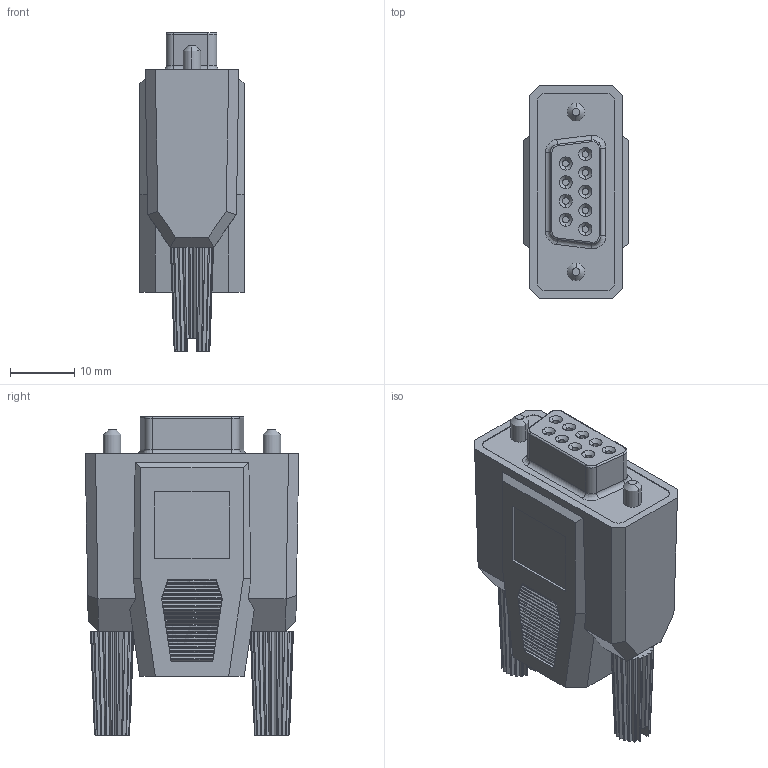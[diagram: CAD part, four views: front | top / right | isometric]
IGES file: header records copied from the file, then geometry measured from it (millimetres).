
Start section:  PTC IGES file: cu_dsub_cable_backshell_9_pin.igs
Global section: file name: cu_dsub_cable_backshell_9_pin.igs; native system: Pro/ENGINEER by Parametric Technology Corporation; preprocessor: 2006080; author: jpearson; organization: Unknown; date: 070620.095214; units: inch
Bounding box: 16.26 x 33.27 x 49.71 mm (x, y, z)
Surface area: 5249.9 mm2 (no closed solid volume)
Topology: 0 solids, 0 shells, 454 faces, 2446 edges, 2446 vertices
Faces by surface type: bspline 306, revolution 148
